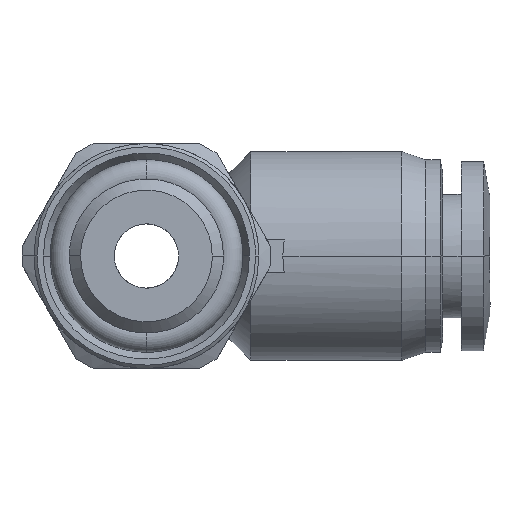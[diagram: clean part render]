
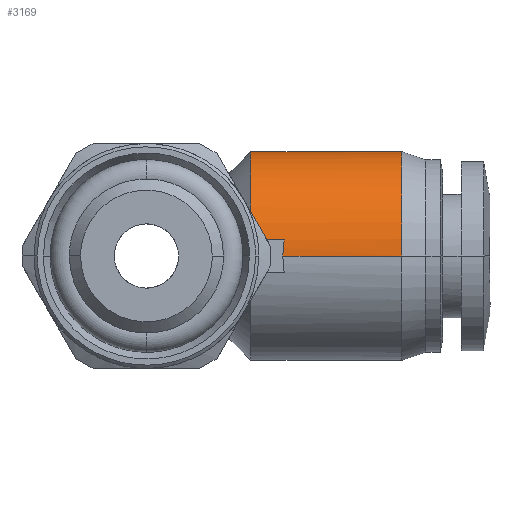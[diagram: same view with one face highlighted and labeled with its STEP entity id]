
A CAD part, front view. The second image highlights one B-rep face of the part: STEP entity #3169.
In plain terms, the highlighted cylindrical face has radius 6.5 mm (diameter 13 mm), a partial arc.
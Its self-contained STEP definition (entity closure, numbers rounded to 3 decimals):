
#2 = AXIS2_PLACEMENT_3D ( 'NONE', #4323, #2878, #2458 ) ;
#44 = VERTEX_POINT ( 'NONE', #4926 ) ;
#50 = CARTESIAN_POINT ( 'NONE',  ( 6.5, 14.767, 6.5 ) ) ;
#240 = EDGE_LOOP ( 'NONE', ( #2442, #4158, #4111, #5499, #419, #4287, #3844, #2744 ) ) ;
#317 = VERTEX_POINT ( 'NONE', #3326 ) ;
#342 = CARTESIAN_POINT ( 'NONE',  ( 7.359, 20.423, 1. ) ) ;
#371 = CARTESIAN_POINT ( 'NONE',  ( 6.5, 7.577, 1. ) ) ;
#419 = ORIENTED_EDGE ( 'NONE', *, *, #3458, .F. ) ;
#462 = CARTESIAN_POINT ( 'NONE',  ( 15.9, 8.32, 3.274 ) ) ;
#468 = CARTESIAN_POINT ( 'NONE',  ( 6.5, 7.695, 1.758 ) ) ;
#493 = CARTESIAN_POINT ( 'NONE',  ( 15.9, 17.995, 5.198 ) ) ;
#500 = CARTESIAN_POINT ( 'NONE',  ( 6.5, 9.189, 4.438 ) ) ;
#704 = CARTESIAN_POINT ( 'NONE',  ( 9.077, 20.423, 1. ) ) ;
#819 = B_SPLINE_CURVE_WITH_KNOTS ( 'NONE', 3,
 ( #2719, #1847, #4041, #462, #2263, #1872, #3132, #3689, #3661, #3604, #5490, #4074, #493, #1821, #5458, #1001, #2322, #4934 ),
 .UNSPECIFIED., .F., .F.,
 ( 4, 2, 2, 2, 2, 2, 2, 2, 4 ),
 ( 0.5, 0.563, 0.625, 0.688, 0.75, 0.813, 0.875, 0.937, 1. ),
 .UNSPECIFIED. ) ;
#844 = VERTEX_POINT ( 'NONE', #371 ) ;
#868 = CARTESIAN_POINT ( 'NONE',  ( 6.5, 13.233, 6.5 ) ) ;
#975 = CARTESIAN_POINT ( 'NONE',  ( 6.5, 20.423, 1. ) ) ;
#1000 = EDGE_CURVE ( 'NONE', #4548, #1848, #819, .T. ) ;
#1001 = CARTESIAN_POINT ( 'NONE',  ( 15.9, 20.331, 1.701 ) ) ;
#1011 = DIRECTION ( 'NONE',  ( 1., 0., 0. ) ) ;
#1064 = LINE ( 'NONE', #5155, #1417 ) ;
#1070 = FACE_OUTER_BOUND ( 'NONE', #240, .T. ) ;
#1145 = CARTESIAN_POINT ( 'NONE',  ( 6.5, 20.423, 1. ) ) ;
#1173 = CARTESIAN_POINT ( 'NONE',  ( 9.025, 20.475, 0.667 ) ) ;
#1187 = CARTESIAN_POINT ( 'NONE',  ( 8.526, 7.526, 0.669 ) ) ;
#1231 = CARTESIAN_POINT ( 'NONE',  ( 8.218, 20.423, 1. ) ) ;
#1265 = CARTESIAN_POINT ( 'NONE',  ( 8.577, 7.577, 1. ) ) ;
#1298 = CARTESIAN_POINT ( 'NONE',  ( 6.5, 12.466, 6.363 ) ) ;
#1417 = VECTOR ( 'NONE', #2871, 1000. ) ;
#1512 = B_SPLINE_CURVE_WITH_KNOTS ( 'NONE', 3,
 ( #5306, #1187, #4888, #1712 ),
 .UNSPECIFIED., .F., .F.,
 ( 4, 4 ),
 ( 0., 0.5 ),
 .UNSPECIFIED. ) ;
#1556 = EDGE_CURVE ( 'NONE', #844, #3081, #5684, .T. ) ;
#1712 = CARTESIAN_POINT ( 'NONE',  ( 8.5, 7.5, 0. ) ) ;
#1821 = CARTESIAN_POINT ( 'NONE',  ( 15.9, 19.198, 3.995 ) ) ;
#1847 = CARTESIAN_POINT ( 'NONE',  ( 15.9, 7.5, 0.851 ) ) ;
#1848 = VERTEX_POINT ( 'NONE', #3981 ) ;
#1852 = CARTESIAN_POINT ( 'NONE',  ( 6.5, 16.973, 5.831 ) ) ;
#1872 = CARTESIAN_POINT ( 'NONE',  ( 15.9, 10.005, 5.198 ) ) ;
#1890 = EDGE_CURVE ( 'NONE', #3081, #44, #1512, .T. ) ;
#2241 = CARTESIAN_POINT ( 'NONE',  ( 6.5, 20.051, 2.495 ) ) ;
#2247 = B_SPLINE_CURVE_WITH_KNOTS ( 'NONE', 3,
 ( #704, #1231, #342, #1145 ),
 .UNSPECIFIED., .F., .F.,
 ( 4, 4 ),
 ( 0., 1. ),
 .UNSPECIFIED. ) ;
#2263 = CARTESIAN_POINT ( 'NONE',  ( 15.9, 8.802, 3.995 ) ) ;
#2270 = CARTESIAN_POINT ( 'NONE',  ( 6.5, 17.645, 5.436 ) ) ;
#2299 = CARTESIAN_POINT ( 'NONE',  ( 6.5, 10.355, 5.436 ) ) ;
#2322 = CARTESIAN_POINT ( 'NONE',  ( 15.9, 20.5, 0.851 ) ) ;
#2325 = CARTESIAN_POINT ( 'NONE',  ( 7.192, 7.577, 1. ) ) ;
#2442 = ORIENTED_EDGE ( 'NONE', *, *, #1890, .T. ) ;
#2458 = DIRECTION ( 'NONE',  ( 0., 1., 0. ) ) ;
#2524 = B_SPLINE_CURVE_WITH_KNOTS ( 'NONE', 3,
 ( #2724, #468, #3552, #5358, #500, #2299, #3163, #1298, #868, #50, #2670, #1852, #2270, #4475, #5825, #2241, #3580, #975 ),
 .UNSPECIFIED., .F., .F.,
 ( 4, 2, 2, 2, 2, 2, 2, 2, 4 ),
 ( 0., 0.125, 0.25, 0.375, 0.5, 0.625, 0.75, 0.875, 1. ),
 .UNSPECIFIED. ) ;
#2525 = CARTESIAN_POINT ( 'NONE',  ( 15.9, 7.5, 0. ) ) ;
#2670 = CARTESIAN_POINT ( 'NONE',  ( 6.5, 15.534, 6.363 ) ) ;
#2719 = CARTESIAN_POINT ( 'NONE',  ( 15.9, 7.5, 0. ) ) ;
#2724 = CARTESIAN_POINT ( 'NONE',  ( 6.5, 7.577, 1. ) ) ;
#2744 = ORIENTED_EDGE ( 'NONE', *, *, #1556, .T. ) ;
#2761 = EDGE_CURVE ( 'NONE', #44, #4548, #5033, .T. ) ;
#2774 = CARTESIAN_POINT ( 'NONE',  ( 6.5, 7.577, 1. ) ) ;
#2871 = DIRECTION ( 'NONE',  ( 1., 0., 0. ) ) ;
#2878 = DIRECTION ( 'NONE',  ( 1., 0., 0. ) ) ;
#2939 = EDGE_CURVE ( 'NONE', #317, #1848, #1064, .T. ) ;
#2977 = CARTESIAN_POINT ( 'NONE',  ( 9., 20.5, 0.333 ) ) ;
#3039 = VERTEX_POINT ( 'NONE', #4881 ) ;
#3081 = VERTEX_POINT ( 'NONE', #1265 ) ;
#3132 = CARTESIAN_POINT ( 'NONE',  ( 15.9, 10.726, 5.68 ) ) ;
#3163 = CARTESIAN_POINT ( 'NONE',  ( 6.5, 11.027, 5.831 ) ) ;
#3169 = ADVANCED_FACE ( 'NONE', ( #1070 ), #5680, .T. ) ;
#3326 = CARTESIAN_POINT ( 'NONE',  ( 9., 20.5, 0. ) ) ;
#3458 = EDGE_CURVE ( 'NONE', #3039, #317, #5660, .T. ) ;
#3552 = CARTESIAN_POINT ( 'NONE',  ( 6.5, 7.949, 2.495 ) ) ;
#3580 = CARTESIAN_POINT ( 'NONE',  ( 6.5, 20.305, 1.758 ) ) ;
#3604 = CARTESIAN_POINT ( 'NONE',  ( 15.9, 14.851, 6.5 ) ) ;
#3661 = CARTESIAN_POINT ( 'NONE',  ( 15.9, 13.149, 6.5 ) ) ;
#3689 = CARTESIAN_POINT ( 'NONE',  ( 15.9, 12.299, 6.331 ) ) ;
#3844 = ORIENTED_EDGE ( 'NONE', *, *, #4094, .F. ) ;
#3862 = CARTESIAN_POINT ( 'NONE',  ( 9.077, 20.423, 1. ) ) ;
#3981 = CARTESIAN_POINT ( 'NONE',  ( 15.9, 20.5, 0. ) ) ;
#4041 = CARTESIAN_POINT ( 'NONE',  ( 15.9, 7.669, 1.701 ) ) ;
#4074 = CARTESIAN_POINT ( 'NONE',  ( 15.9, 17.274, 5.68 ) ) ;
#4094 = EDGE_CURVE ( 'NONE', #844, #4767, #2524, .T. ) ;
#4111 = ORIENTED_EDGE ( 'NONE', *, *, #1000, .T. ) ;
#4132 = CARTESIAN_POINT ( 'NONE',  ( 7.885, 7.577, 1. ) ) ;
#4158 = ORIENTED_EDGE ( 'NONE', *, *, #2761, .T. ) ;
#4260 = EDGE_CURVE ( 'NONE', #3039, #4767, #2247, .T. ) ;
#4287 = ORIENTED_EDGE ( 'NONE', *, *, #4260, .T. ) ;
#4323 = CARTESIAN_POINT ( 'NONE',  ( 11.2, 14., 0. ) ) ;
#4475 = CARTESIAN_POINT ( 'NONE',  ( 6.5, 18.811, 4.438 ) ) ;
#4548 = VERTEX_POINT ( 'NONE', #2525 ) ;
#4767 = VERTEX_POINT ( 'NONE', #5131 ) ;
#4788 = CARTESIAN_POINT ( 'NONE',  ( 9., 20.5, 0. ) ) ;
#4881 = CARTESIAN_POINT ( 'NONE',  ( 9.077, 20.423, 1. ) ) ;
#4888 = CARTESIAN_POINT ( 'NONE',  ( 8.5, 7.5, 0.335 ) ) ;
#4926 = CARTESIAN_POINT ( 'NONE',  ( 8.5, 7.5, 0. ) ) ;
#4934 = CARTESIAN_POINT ( 'NONE',  ( 15.9, 20.5, 0. ) ) ;
#5033 = LINE ( 'NONE', #5859, #5309 ) ;
#5131 = CARTESIAN_POINT ( 'NONE',  ( 6.5, 20.423, 1. ) ) ;
#5155 = CARTESIAN_POINT ( 'NONE',  ( 11.2, 20.5, 0. ) ) ;
#5306 = CARTESIAN_POINT ( 'NONE',  ( 8.577, 7.577, 1. ) ) ;
#5309 = VECTOR ( 'NONE', #1011, 1000. ) ;
#5355 = CARTESIAN_POINT ( 'NONE',  ( 8.577, 7.577, 1. ) ) ;
#5358 = CARTESIAN_POINT ( 'NONE',  ( 6.5, 8.696, 3.835 ) ) ;
#5458 = CARTESIAN_POINT ( 'NONE',  ( 15.9, 19.68, 3.274 ) ) ;
#5490 = CARTESIAN_POINT ( 'NONE',  ( 15.9, 15.701, 6.331 ) ) ;
#5499 = ORIENTED_EDGE ( 'NONE', *, *, #2939, .F. ) ;
#5660 = B_SPLINE_CURVE_WITH_KNOTS ( 'NONE', 3,
 ( #3862, #1173, #2977, #4788 ),
 .UNSPECIFIED., .F., .F.,
 ( 4, 4 ),
 ( 0., 0.5 ),
 .UNSPECIFIED. ) ;
#5680 = CYLINDRICAL_SURFACE ( 'NONE', #2, 6.5 ) ;
#5684 = B_SPLINE_CURVE_WITH_KNOTS ( 'NONE', 3,
 ( #2774, #2325, #4132, #5355 ),
 .UNSPECIFIED., .F., .F.,
 ( 4, 4 ),
 ( 0., 1. ),
 .UNSPECIFIED. ) ;
#5825 = CARTESIAN_POINT ( 'NONE',  ( 6.5, 19.304, 3.835 ) ) ;
#5859 = CARTESIAN_POINT ( 'NONE',  ( 11.2, 7.5, 0. ) ) ;
